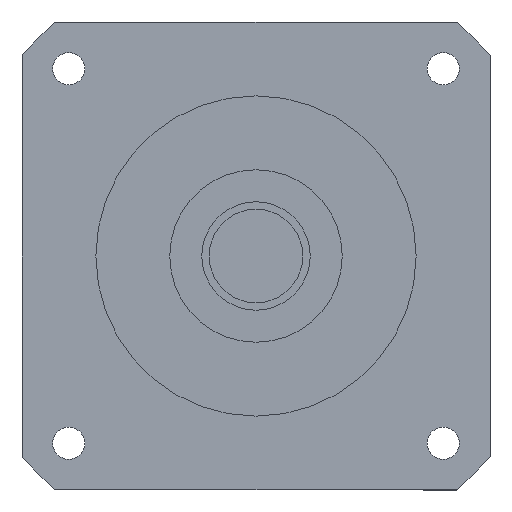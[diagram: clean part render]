
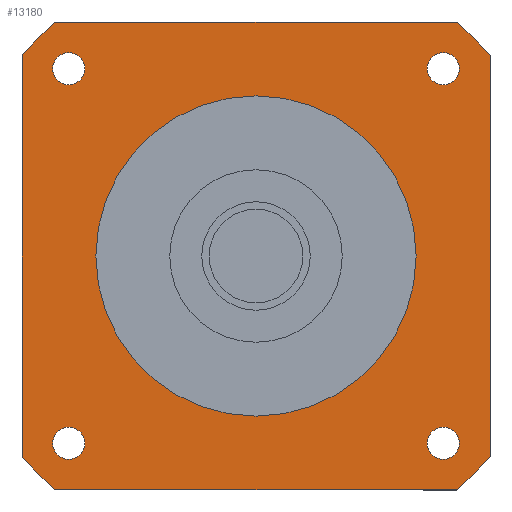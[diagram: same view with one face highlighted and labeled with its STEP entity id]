
A CAD part, left-side view. The second image highlights one B-rep face of the part: STEP entity #13180.
In plain terms, the highlighted planar face has unit normal (-1, 0, 0) as drawn and (0, 0, -1) by its records, which use the part's own axes.
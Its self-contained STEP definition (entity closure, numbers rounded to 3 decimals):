
#10190=CARTESIAN_POINT('',(-81.24,95.,-84.7));
#10200=VERTEX_POINT('',#10190);
#10380=CARTESIAN_POINT('',(-95.,81.24,-84.7));
#10390=VERTEX_POINT('',#10380);
#10420=CARTESIAN_POINT('',(0.,0.,
-84.7));
#10430=DIRECTION('',(0.,0.,-1.));
#10440=DIRECTION('',(1.,0.,0.));
#10450=AXIS2_PLACEMENT_3D('',#10420,#10430,#10440);
#10460=CIRCLE('',#10450,125.);
#10470=EDGE_CURVE('',#10390,#10200,#10460,.T.);
#10610=CARTESIAN_POINT('',(81.24,95.,-84.7));
#10620=VERTEX_POINT('',#10610);
#10670=CARTESIAN_POINT('',(0.,0.,
-84.7));
#10680=DIRECTION('',(0.,0.,-1.));
#10690=DIRECTION('',(1.,0.,0.));
#10700=AXIS2_PLACEMENT_3D('',#10670,#10680,#10690);
#10710=CIRCLE('',#10700,125.);
#10720=CARTESIAN_POINT('',(95.,81.24,-84.7));
#10730=VERTEX_POINT('',#10720);
#10740=EDGE_CURVE('',#10620,#10730,#10710,.T.);
#11690=CARTESIAN_POINT('',(65.,0.,-84.7));
#11700=VERTEX_POINT('',#11690);
#11730=CARTESIAN_POINT('',(0.,0.,
-84.7));
#11740=DIRECTION('',(0.,0.,1.));
#11750=DIRECTION('',(0.,1.,0.));
#11760=AXIS2_PLACEMENT_3D('',#11730,#11740,#11750);
#11770=CIRCLE('',#11760,65.);
#11780=CARTESIAN_POINT('',(0.,65.,-84.7));
#11790=VERTEX_POINT('',#11780);
#11800=EDGE_CURVE('',#11700,#11790,#11770,.T.);
#11820=CARTESIAN_POINT('',(-65.,0.,-84.7));
#11830=VERTEX_POINT('',#11820);
#11840=EDGE_CURVE('',#11790,#11830,#11770,.T.);
#11970=CARTESIAN_POINT('',(95.,95.,-84.7));
#11980=DIRECTION('',(0.,0.,-1.));
#11990=DIRECTION('',(1.,0.,0.));
#12000=AXIS2_PLACEMENT_3D('',#11970,#11980,#11990);
#12010=PLANE('',#12000);
#12020=CARTESIAN_POINT('',(-76.014,76.014,-84.7));
#12030=DIRECTION('',(0.,0.,-1.));
#12040=DIRECTION('',(-1.,0.,0.));
#12050=AXIS2_PLACEMENT_3D('',#12020,#12030,#12040);
#12060=CIRCLE('',#12050,6.5);
#12070=CARTESIAN_POINT('',(-82.514,76.014,-84.7));
#12080=VERTEX_POINT('',#12070);
#12090=CARTESIAN_POINT('',(-69.514,76.014,-84.7));
#12100=VERTEX_POINT('',#12090);
#12110=EDGE_CURVE('',#12080,#12100,#12060,.T.);
#12120=ORIENTED_EDGE('',*,*,#12110,.F.);
#12130=EDGE_CURVE('',#12100,#12080,#12060,.T.);
#12140=ORIENTED_EDGE('',*,*,#12130,.F.);
#12150=EDGE_LOOP('',(#12140,#12120));
#12160=FACE_BOUND('',#12150,.T.);
#12170=CARTESIAN_POINT('',(76.014,76.014,-84.7));
#12180=DIRECTION('',(0.,0.,-1.));
#12190=DIRECTION('',(0.,1.,0.));
#12200=AXIS2_PLACEMENT_3D('',#12170,#12180,#12190);
#12210=CIRCLE('',#12200,6.5);
#12220=CARTESIAN_POINT('',(76.014,82.514,-84.7));
#12230=VERTEX_POINT('',#12220);
#12240=CARTESIAN_POINT('',(76.014,69.514,-84.7));
#12250=VERTEX_POINT('',#12240);
#12260=EDGE_CURVE('',#12230,#12250,#12210,.T.);
#12270=ORIENTED_EDGE('',*,*,#12260,.F.);
#12280=EDGE_CURVE('',#12250,#12230,#12210,.T.);
#12290=ORIENTED_EDGE('',*,*,#12280,.F.);
#12300=EDGE_LOOP('',(#12290,#12270));
#12310=FACE_BOUND('',#12300,.T.);
#12320=EDGE_CURVE('',#11830,#11700,#11770,.T.);
#12330=ORIENTED_EDGE('',*,*,#12320,.T.);
#12340=ORIENTED_EDGE('',*,*,#11840,.T.);
#12350=ORIENTED_EDGE('',*,*,#11800,.T.);
#12360=EDGE_LOOP('',(#12350,#12340,#12330));
#12370=FACE_BOUND('',#12360,.T.);
#12380=CARTESIAN_POINT('',(76.014,-76.014,-84.7));
#12390=DIRECTION('',(0.,0.,-1.));
#12400=DIRECTION('',(1.,0.,0.));
#12410=AXIS2_PLACEMENT_3D('',#12380,#12390,#12400);
#12420=CIRCLE('',#12410,6.5);
#12430=CARTESIAN_POINT('',(82.514,-76.014,-84.7));
#12440=VERTEX_POINT('',#12430);
#12450=CARTESIAN_POINT('',(69.514,-76.014,-84.7));
#12460=VERTEX_POINT('',#12450);
#12470=EDGE_CURVE('',#12440,#12460,#12420,.T.);
#12480=ORIENTED_EDGE('',*,*,#12470,.F.);
#12490=EDGE_CURVE('',#12460,#12440,#12420,.T.);
#12500=ORIENTED_EDGE('',*,*,#12490,.F.);
#12510=EDGE_LOOP('',(#12500,#12480));
#12520=FACE_BOUND('',#12510,.T.);
#12530=CARTESIAN_POINT('',(-76.014,-76.014,-84.7));
#12540=DIRECTION('',(0.,0.,-1.));
#12550=DIRECTION('',(0.,-1.,0.));
#12560=AXIS2_PLACEMENT_3D('',#12530,#12540,#12550);
#12570=CIRCLE('',#12560,6.5);
#12580=CARTESIAN_POINT('',(-76.014,-82.514,-84.7));
#12590=VERTEX_POINT('',#12580);
#12600=CARTESIAN_POINT('',(-76.014,-69.514,-84.7));
#12610=VERTEX_POINT('',#12600);
#12620=EDGE_CURVE('',#12590,#12610,#12570,.T.);
#12630=ORIENTED_EDGE('',*,*,#12620,.F.);
#12640=EDGE_CURVE('',#12610,#12590,#12570,.T.);
#12650=ORIENTED_EDGE('',*,*,#12640,.F.);
#12660=EDGE_LOOP('',(#12650,#12630));
#12670=FACE_BOUND('',#12660,.T.);
#12680=CARTESIAN_POINT('',(-95.,95.,-84.7));
#12690=DIRECTION('',(1.,0.,0.));
#12700=VECTOR('',#12690,1000.);
#12710=LINE('',#12680,#12700);
#12720=EDGE_CURVE('',#10200,#10620,#12710,.T.);
#12730=ORIENTED_EDGE('',*,*,#12720,.T.);
#12740=ORIENTED_EDGE('',*,*,#10470,.T.);
#12750=CARTESIAN_POINT('',(-95.,-95.,-84.7));
#12760=DIRECTION('',(0.,1.,0.));
#12770=VECTOR('',#12760,1000.);
#12780=LINE('',#12750,#12770);
#12790=CARTESIAN_POINT('',(-95.,-81.24,-84.7));
#12800=VERTEX_POINT('',#12790);
#12810=EDGE_CURVE('',#12800,#10390,#12780,.T.);
#12820=ORIENTED_EDGE('',*,*,#12810,.T.);
#12830=CARTESIAN_POINT('',(0.,0.,
-84.7));
#12840=DIRECTION('',(0.,0.,-1.));
#12850=DIRECTION('',(1.,0.,0.));
#12860=AXIS2_PLACEMENT_3D('',#12830,#12840,#12850);
#12870=CIRCLE('',#12860,125.);
#12880=CARTESIAN_POINT('',(-81.24,-95.,-84.7));
#12890=VERTEX_POINT('',#12880);
#12900=EDGE_CURVE('',#12890,#12800,#12870,.T.);
#12910=ORIENTED_EDGE('',*,*,#12900,.T.);
#12920=CARTESIAN_POINT('',(95.,-95.,-84.7));
#12930=DIRECTION('',(-1.,0.,0.));
#12940=VECTOR('',#12930,1000.);
#12950=LINE('',#12920,#12940);
#12960=CARTESIAN_POINT('',(81.24,-95.,-84.7));
#12970=VERTEX_POINT('',#12960);
#12980=EDGE_CURVE('',#12970,#12890,#12950,.T.);
#12990=ORIENTED_EDGE('',*,*,#12980,.T.);
#13000=CARTESIAN_POINT('',(0.,0.,
-84.7));
#13010=DIRECTION('',(0.,0.,-1.));
#13020=DIRECTION('',(1.,0.,0.));
#13030=AXIS2_PLACEMENT_3D('',#13000,#13010,#13020);
#13040=CIRCLE('',#13030,125.);
#13050=CARTESIAN_POINT('',(95.,-81.24,-84.7));
#13060=VERTEX_POINT('',#13050);
#13070=EDGE_CURVE('',#13060,#12970,#13040,.T.);
#13080=ORIENTED_EDGE('',*,*,#13070,.T.);
#13090=CARTESIAN_POINT('',(95.,95.,-84.7));
#13100=DIRECTION('',(0.,-1.,0.));
#13110=VECTOR('',#13100,1000.);
#13120=LINE('',#13090,#13110);
#13130=EDGE_CURVE('',#10730,#13060,#13120,.T.);
#13140=ORIENTED_EDGE('',*,*,#13130,.T.);
#13150=ORIENTED_EDGE('',*,*,#10740,.T.);
#13160=EDGE_LOOP('',(#13150,#13140,#13080,#12990,#12910,#12820,#12740,
#12730));
#13170=FACE_OUTER_BOUND('',#13160,.T.);
#13180=ADVANCED_FACE('',(#12160,#12310,#12370,#12520,#12670,#13170),
#12010,.T.);
